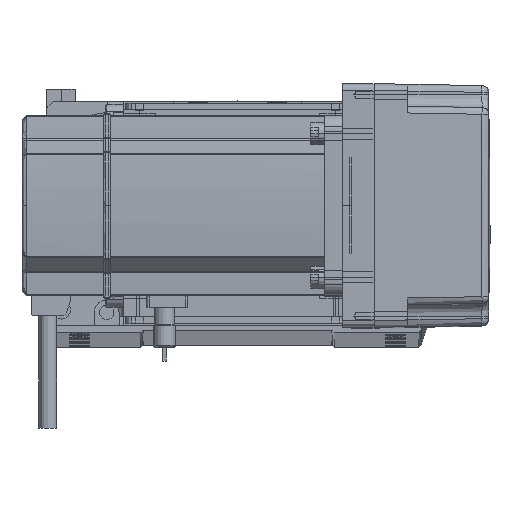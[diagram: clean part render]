
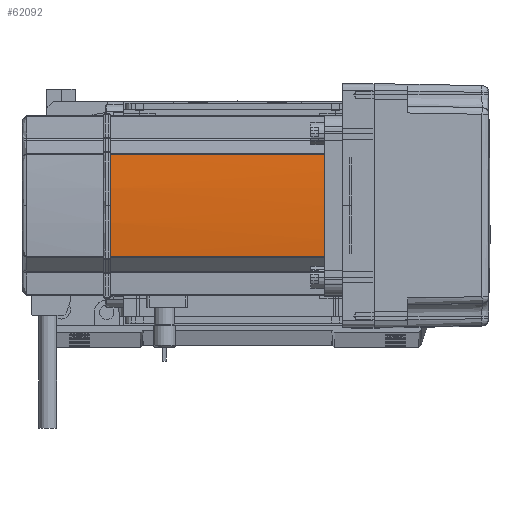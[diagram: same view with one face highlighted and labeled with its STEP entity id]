
A CAD part, top view. The second image highlights one B-rep face of the part: STEP entity #62092.
In plain terms, the highlighted cylindrical face has radius 270 mm (diameter 540 mm), a partial arc.
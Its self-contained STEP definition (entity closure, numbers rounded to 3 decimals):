
#2008 = CIRCLE ( 'NONE', #55296, 270. ) ;
#2925 = EDGE_LOOP ( 'NONE', ( #22604, #45358, #49459, #66151, #15666 ) ) ;
#3066 = VERTEX_POINT ( 'NONE', #45137 ) ;
#7069 = CARTESIAN_POINT ( 'NONE',  ( 230., 0., 39. ) ) ;
#11962 = DIRECTION ( 'NONE',  ( 1., 0., 0. ) ) ;
#12801 = DIRECTION ( 'NONE',  ( 0., 0., 1. ) ) ;
#13068 = EDGE_CURVE ( 'NONE', #23656, #37152, #23733, .T. ) ;
#14158 = LINE ( 'NONE', #54697, #37497 ) ;
#15666 = ORIENTED_EDGE ( 'NONE', *, *, #30174, .T. ) ;
#17391 = CARTESIAN_POINT ( 'NONE',  ( -39.042, 22.724, 0. ) ) ;
#20218 = VERTEX_POINT ( 'NONE', #59488 ) ;
#22314 = EDGE_CURVE ( 'NONE', #37152, #20218, #43523, .T. ) ;
#22604 = ORIENTED_EDGE ( 'NONE', *, *, #38655, .T. ) ;
#22737 = DIRECTION ( 'NONE',  ( 0., 0., -1. ) ) ;
#22764 = CARTESIAN_POINT ( 'NONE',  ( -40., 0., 134. ) ) ;
#23656 = VERTEX_POINT ( 'NONE', #22764 ) ;
#23733 = CIRCLE ( 'NONE', #23817, 270. ) ;
#23817 = AXIS2_PLACEMENT_3D ( 'NONE', #24876, #51820, #25097 ) ;
#24876 = CARTESIAN_POINT ( 'NONE',  ( 230., 0., 134. ) ) ;
#25097 = DIRECTION ( 'NONE',  ( 1., 0., 0. ) ) ;
#26838 = CARTESIAN_POINT ( 'NONE',  ( 230., 0., 134. ) ) ;
#30174 = EDGE_CURVE ( 'NONE', #55702, #3066, #14158, .T. ) ;
#32321 = CARTESIAN_POINT ( 'NONE',  ( -39.042, -22.724, 39. ) ) ;
#32660 = DIRECTION ( 'NONE',  ( 0., 0., -1. ) ) ;
#35937 = CARTESIAN_POINT ( 'NONE',  ( -39.042, 22.724, 134. ) ) ;
#37152 = VERTEX_POINT ( 'NONE', #35937 ) ;
#37497 = VECTOR ( 'NONE', #44223, 1000. ) ;
#38355 = DIRECTION ( 'NONE',  ( 0., 0., -1. ) ) ;
#38655 = EDGE_CURVE ( 'NONE', #3066, #23656, #53323, .T. ) ;
#42379 = EDGE_CURVE ( 'NONE', #55702, #20218, #2008, .T. ) ;
#42840 = FACE_OUTER_BOUND ( 'NONE', #2925, .T. ) ;
#43523 = LINE ( 'NONE', #17391, #47660 ) ;
#44223 = DIRECTION ( 'NONE',  ( 0., 0., 1. ) ) ;
#44709 = CARTESIAN_POINT ( 'NONE',  ( 230., 0., 0. ) ) ;
#45137 = CARTESIAN_POINT ( 'NONE',  ( -39.042, -22.724, 134. ) ) ;
#45358 = ORIENTED_EDGE ( 'NONE', *, *, #13068, .T. ) ;
#47660 = VECTOR ( 'NONE', #38355, 1000. ) ;
#49459 = ORIENTED_EDGE ( 'NONE', *, *, #22314, .T. ) ;
#51820 = DIRECTION ( 'NONE',  ( 0., 0., -1. ) ) ;
#53323 = CIRCLE ( 'NONE', #57754, 270. ) ;
#54481 = DIRECTION ( 'NONE',  ( 1., 0., 0. ) ) ;
#54697 = CARTESIAN_POINT ( 'NONE',  ( -39.042, -22.724, 0. ) ) ;
#55296 = AXIS2_PLACEMENT_3D ( 'NONE', #7069, #22737, #11962 ) ;
#55702 = VERTEX_POINT ( 'NONE', #32321 ) ;
#55954 = AXIS2_PLACEMENT_3D ( 'NONE', #44709, #12801, #54481 ) ;
#57754 = AXIS2_PLACEMENT_3D ( 'NONE', #26838, #32660, #59153 ) ;
#59153 = DIRECTION ( 'NONE',  ( 1., 0., 0. ) ) ;
#59488 = CARTESIAN_POINT ( 'NONE',  ( -39.042, 22.724, 39. ) ) ;
#61959 = CYLINDRICAL_SURFACE ( 'NONE', #55954, 270. ) ;
#62092 = ADVANCED_FACE ( 'NONE', ( #42840 ), #61959, .T. ) ;
#66151 = ORIENTED_EDGE ( 'NONE', *, *, #42379, .F. ) ;
